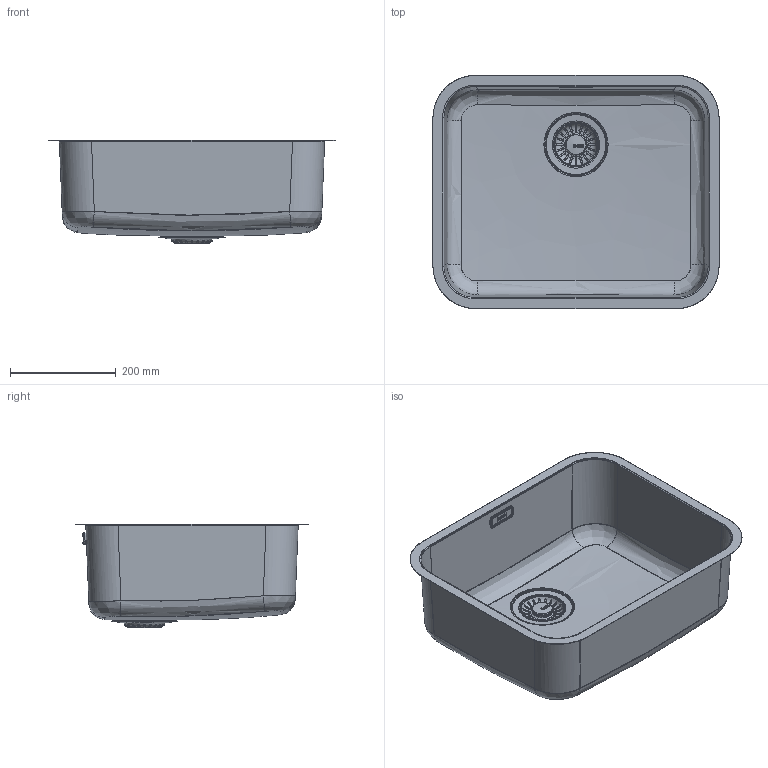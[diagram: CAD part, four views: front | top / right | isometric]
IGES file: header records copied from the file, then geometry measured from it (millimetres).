
Global section: file name: F:\_CONVERSIONE_CAD_2024_2025\_2024\03_3D kits new\Sinks\SMART\122.0685.804 3D001_Sinks_Smart_SRX-110-50-OFH\3D001_Sinks_Smart_SRX-110-50-OFH.igs; native system: Rhinoceros ( Jun 11 2024 ); preprocessor: Trout Lake IGES 012 Jun 11 2024; date: 240701.080915; units: millimetre
Bounding box: 541 x 441 x 195.48 mm (x, y, z)
Surface area: 995225.8 mm2 (no closed solid volume)
Topology: 0 solids, 0 shells, 934 faces, 5671 edges, 5637 vertices
Faces by surface type: bspline 934
